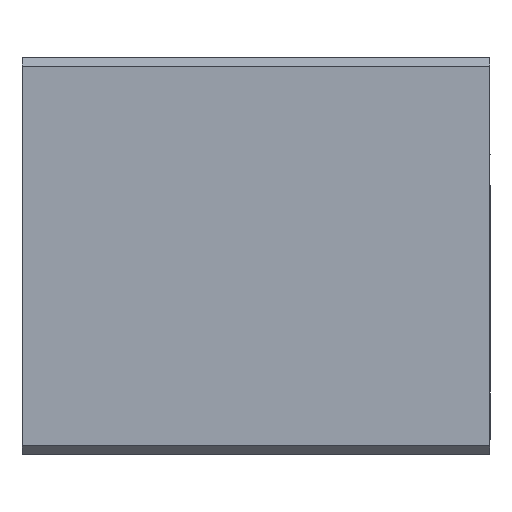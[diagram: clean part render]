
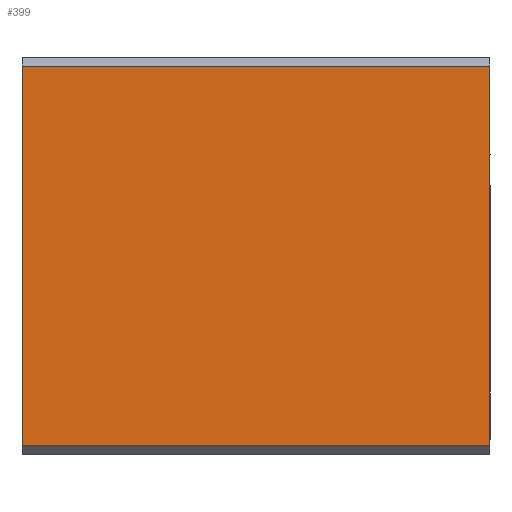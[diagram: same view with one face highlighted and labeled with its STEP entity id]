
A CAD part, front view. The second image highlights one B-rep face of the part: STEP entity #399.
In plain terms, the highlighted planar face has unit normal (0, -1, 0).
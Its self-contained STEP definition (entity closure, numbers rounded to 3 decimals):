
#250 = DIRECTION ( 'NONE',  ( 0., 0., -1. ) ) ;
#399 = ADVANCED_FACE ( 'NONE', ( #4224 ), #22247, .F. ) ;
#2539 = VECTOR ( 'NONE', #250, 1000. ) ;
#2725 = CARTESIAN_POINT ( 'NONE',  ( 53., -22.5, 21.5 ) ) ;
#2880 = CARTESIAN_POINT ( 'NONE',  ( 0., -22.5, 22.5 ) ) ;
#2897 = LINE ( 'NONE', #3779, #11594 ) ;
#2952 = CARTESIAN_POINT ( 'NONE',  ( 53., -22.5, -21.5 ) ) ;
#3194 = ORIENTED_EDGE ( 'NONE', *, *, #14406, .T. ) ;
#3779 = CARTESIAN_POINT ( 'NONE',  ( 53., -22.5, -21.5 ) ) ;
#4224 = FACE_OUTER_BOUND ( 'NONE', #11329, .T. ) ;
#4957 = CARTESIAN_POINT ( 'NONE',  ( 0., -22.5, -21.5 ) ) ;
#5881 = EDGE_CURVE ( 'NONE', #14381, #20464, #6660, .T. ) ;
#6629 = CARTESIAN_POINT ( 'NONE',  ( 53., -22.5, 22.5 ) ) ;
#6641 = LINE ( 'NONE', #2880, #19985 ) ;
#6660 = LINE ( 'NONE', #14371, #15910 ) ;
#8399 = ORIENTED_EDGE ( 'NONE', *, *, #5881, .T. ) ;
#8400 = DIRECTION ( 'NONE',  ( 0., 0., 1. ) ) ;
#8934 = CARTESIAN_POINT ( 'NONE',  ( 53., -22.5, 22.5 ) ) ;
#9017 = AXIS2_PLACEMENT_3D ( 'NONE', #6629, #18793, #8400 ) ;
#9433 = ORIENTED_EDGE ( 'NONE', *, *, #22466, .F. ) ;
#11329 = EDGE_LOOP ( 'NONE', ( #3194, #22148, #9433, #8399 ) ) ;
#11594 = VECTOR ( 'NONE', #12528, 1000. ) ;
#12528 = DIRECTION ( 'NONE',  ( 1., 0., 0. ) ) ;
#12970 = VERTEX_POINT ( 'NONE', #4957 ) ;
#14286 = DIRECTION ( 'NONE',  ( -1., 0., 0. ) ) ;
#14371 = CARTESIAN_POINT ( 'NONE',  ( 53., -22.5, 21.5 ) ) ;
#14381 = VERTEX_POINT ( 'NONE', #2725 ) ;
#14406 = EDGE_CURVE ( 'NONE', #20464, #12970, #6641, .T. ) ;
#14774 = CARTESIAN_POINT ( 'NONE',  ( 0., -22.5, 21.5 ) ) ;
#15008 = DIRECTION ( 'NONE',  ( 0., 0., -1. ) ) ;
#15846 = LINE ( 'NONE', #8934, #2539 ) ;
#15910 = VECTOR ( 'NONE', #14286, 1000. ) ;
#18793 = DIRECTION ( 'NONE',  ( 0., 1., 0. ) ) ;
#19985 = VECTOR ( 'NONE', #15008, 1000. ) ;
#20464 = VERTEX_POINT ( 'NONE', #14774 ) ;
#20550 = VERTEX_POINT ( 'NONE', #2952 ) ;
#20754 = EDGE_CURVE ( 'NONE', #12970, #20550, #2897, .T. ) ;
#22148 = ORIENTED_EDGE ( 'NONE', *, *, #20754, .T. ) ;
#22247 = PLANE ( 'NONE',  #9017 ) ;
#22466 = EDGE_CURVE ( 'NONE', #14381, #20550, #15846, .T. ) ;
